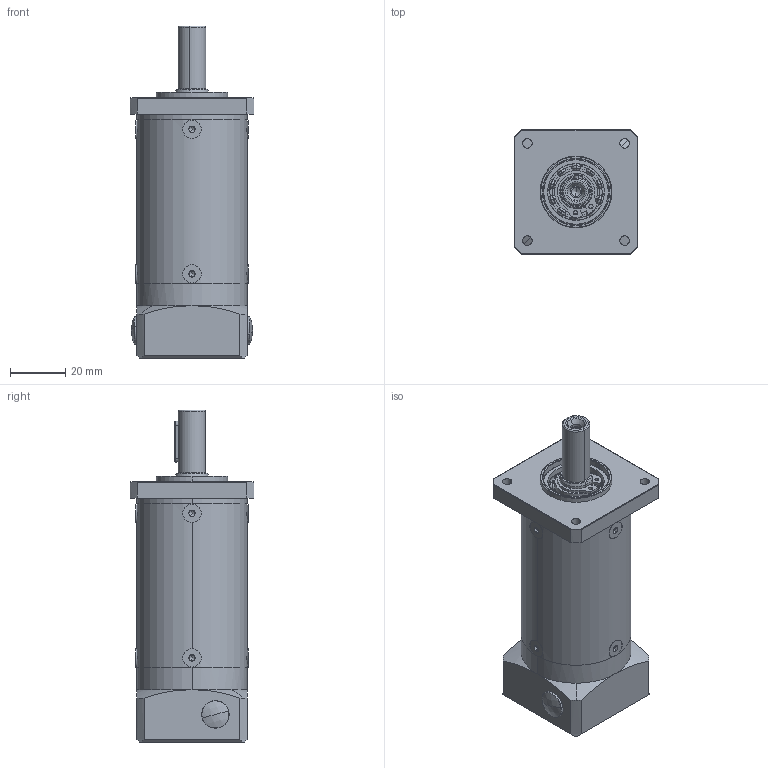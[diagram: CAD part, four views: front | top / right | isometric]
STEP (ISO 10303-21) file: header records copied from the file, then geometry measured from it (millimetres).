
FILE_DESCRIPTION (( 'STEP AP203' ), '1' );
FILE_NAME ('PF40L3-i-P2-S2-8-25-30-45-M3.step', '2020-03-23T09:09:10', ( '个人用户' ), ( '微软中国' ), 'SwSTEP 2.0', 'SolidWorks 2018', '' );
FILE_SCHEMA (( 'CONFIG_CONTROL_DESIGN' ));
Length unit declared in the file: millimetre
Products named in the file (1): PF40L3-i-P2-S2-8-25-30-45-M3
Bounding box: 45 x 45 x 120.5 mm (x, y, z)
Volume: 81091.3 mm3; surface area: 53957.5 mm2
Topology: 31 solids, 31 shells, 1275 faces, 3413 edges, 2152 vertices
Faces by surface type: cylinder 357, plane 267, sphere 250, cone 211, torus 186, bspline 4
Entity records: 48598 total; most frequent: CARTESIAN_POINT 17126, ORIENTED_EDGE 6762, DIRECTION 6554, EDGE_CURVE 3381, AXIS2_PLACEMENT_3D 2924, VERTEX_POINT 2152, CIRCLE 1652, EDGE_LOOP 1467
